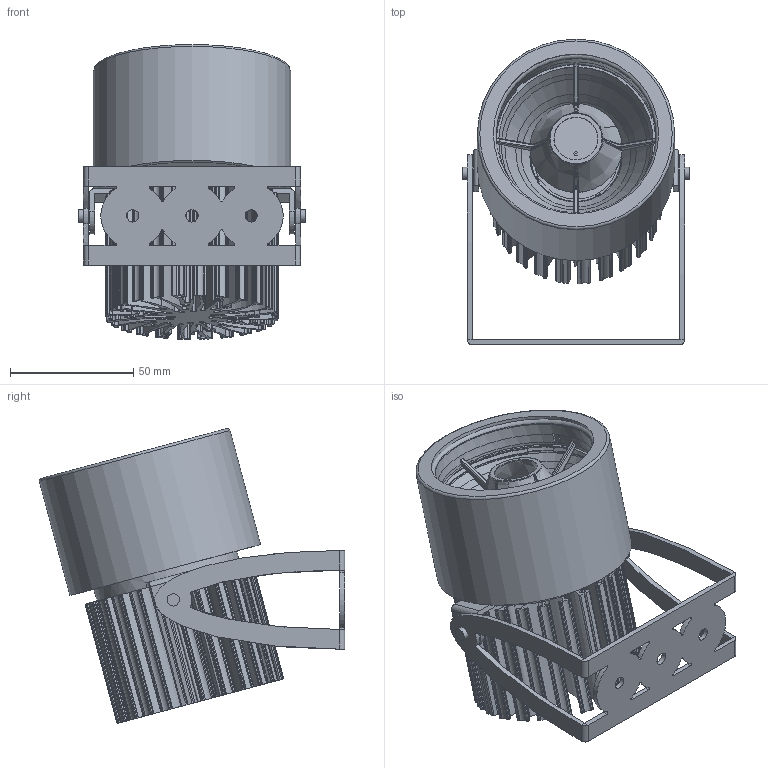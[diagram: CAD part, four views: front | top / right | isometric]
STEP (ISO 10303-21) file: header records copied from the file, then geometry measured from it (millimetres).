
FILE_DESCRIPTION(/* description */ (''),/* implementation_level */ '2;1');
FILE_NAME(/* name */ 'C:/Users/elena/OneDrive/Allegati di posta elettronica/Desktop/Donatello Bracket .step',/* time_stamp */ '2020-06-03T11:39:15+02:00',/* author */ (''),/* organization */ (''),/* preprocessor_version */ 'ST-DEVELOPER v18.1',/* originating_system */ 'Autodesk Translation Framework v9.3.0.1241',/* authorisation */ '');
FILE_SCHEMA (('AUTOMOTIVE_DESIGN { 1 0 10303 214 3 1 1 }'));
Length unit declared in the file: millimetre
Products named in the file (1): Pubblico
Bounding box: 92 x 123.8 x 119.54 mm (x, y, z)
Volume: 200920.7 mm3; surface area: 168214 mm2
Topology: 9 solids, 9 shells, 1709 faces, 4851 edges, 3136 vertices
Faces by surface type: cylinder 732, bspline 416, plane 324, cone 146, torus 80, sphere 11
Full cylindrical faces by diameter (mm): 3.5 x2, 4 x2, 5 x5, 43.86 x1, 60 x1, 67 x1, 75 x2, 80 x1
Entity records: 108270 total; most frequent: CARTESIAN_POINT 65290, ORIENTED_EDGE 9664, DIRECTION 8457, EDGE_CURVE 4832, AXIS2_PLACEMENT_3D 3413, VERTEX_POINT 3136, CIRCLE 1899, EDGE_LOOP 1762
